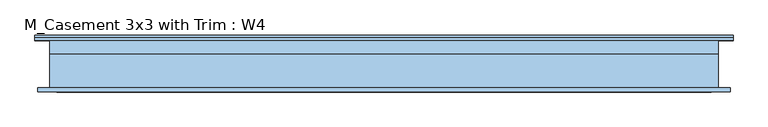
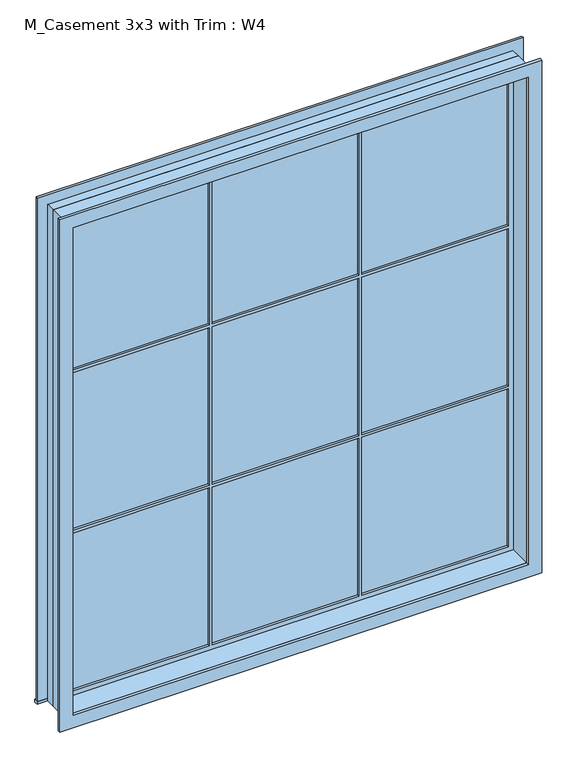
"""IFC4 building model written with IfcOpenShell, lengths in millimetres: window geometry, M_Casement 3x3 with Trim : W4."""

import ifcopenshell
import ifcopenshell.guid

model = None  # the IFC model being written
_history = None  # IfcOwnerHistory: only IFC2X3 demands one
_inside = {}  # id of a spatial element -> (the spatial element, [elements in it])
_under = {}  # id of a project, library or spatial element -> (it, [spatial elements below it])
_declared = {}  # id of a project -> (the project, [libraries it declares])
_typed = {}  # id of a type object -> (the type object, [elements of that type])
_made_of = {}  # id of a material, layer set ... -> (it, [elements and type objects made of it])


def new_model(schema):
    """Start an empty IFC model of exactly this schema.

    Asked for "IFC4X3", IfcOpenShell would pick the latest addendum, in which some entities
    have other attributes; the version numbers below select the first issue.
    IFC2X3 requires an IfcOwnerHistory on every rooted entity: one is made here for all.
    """
    global model, _history
    if schema == "IFC4X3":
        model = ifcopenshell.file(schema_version=(4, 3, 0, 0))
    else:
        model = ifcopenshell.file(schema=schema)
    _inside.clear()
    _under.clear()
    _declared.clear()
    _typed.clear()
    _made_of.clear()
    _history = None
    if model.schema == "IFC2X3":
        org = make("IfcOrganization", Name="unknown")
        user = make(
            "IfcPersonAndOrganization",
            ThePerson=make("IfcPerson", FamilyName="unknown"),
            TheOrganization=org,
        )
        app = make(
            "IfcApplication",
            ApplicationDeveloper=org,
            Version="unknown",
            ApplicationFullName="unknown",
            ApplicationIdentifier="unknown",
        )
        _history = make(
            "IfcOwnerHistory",
            OwningUser=user,
            OwningApplication=app,
            ChangeAction="ADDED",
            CreationDate=0,
        )
    return model


def make(cls, **values):
    """One entity of the class cls with the attributes given. An attribute that is None is left unset."""
    return model.create_entity(
        cls, **{name: value for name, value in values.items() if value is not None}
    )


def rooted(cls, **values):
    """An entity with a GlobalId (a new one), such as an element, a storey or a relation."""
    return make(cls, GlobalId=ifcopenshell.guid.new(), OwnerHistory=_history, **values)


def si_unit(unit_type, name, prefix=None):
    """IfcSIUnit, for example si_unit("LENGTHUNIT", "METRE", prefix="MILLI")."""
    return make("IfcSIUnit", UnitType=unit_type, Prefix=prefix, Name=name)


def assignment(units):
    """IfcUnitAssignment: the units of a project."""
    return None if units is None else make("IfcUnitAssignment", Units=units)


def point(xyz):
    """IfcCartesianPoint."""
    return None if xyz is None else make("IfcCartesianPoint", Coordinates=xyz)


def direction(xyz):
    """IfcDirection."""
    return None if xyz is None else make("IfcDirection", DirectionRatios=xyz)


def frame(location, z_axis=None, x_axis=None):
    """IfcAxis2Placement3D, a coordinate frame: its origin and axes. An axis left out is left unset."""
    return make(
        "IfcAxis2Placement3D",
        Location=point(location),
        Axis=direction(z_axis),
        RefDirection=direction(x_axis),
    )


def origin():
    """The frame at (0, 0, 0) with its axes left unset."""
    return frame((0.0, 0.0, 0.0))


def place(relative_to, where):
    """IfcLocalPlacement: puts the frame where relative to a parent placement (None: the world)."""
    return make(
        "IfcLocalPlacement", PlacementRelTo=relative_to, RelativePlacement=where
    )


def context(
    kind, dimensions, precision=None, world=None, true_north=None, identifier=None
):
    """IfcGeometricRepresentationContext, for example the 3D "Model" context."""
    return make(
        "IfcGeometricRepresentationContext",
        ContextIdentifier=identifier,
        ContextType=kind,
        CoordinateSpaceDimension=dimensions,
        Precision=precision,
        WorldCoordinateSystem=world,
        TrueNorth=true_north,
    )


def project(units=None, contexts=None):
    """IfcProject with its units and contexts."""
    return rooted(
        "IfcProject",
        Name="project",
        RepresentationContexts=contexts,
        UnitsInContext=assignment(units),
    )


def spatial(cls, under=None, at=None, **own):
    """A site, building, storey or space (cls), placed at a placement, below another one or the project."""
    s = rooted(cls, ObjectPlacement=at, **own)
    if under is not None:
        _under.setdefault(under.id(), (under, []))[1].append(s)
    return s


def polyline(points):
    """IfcPolyline through the points."""
    return make("IfcPolyline", Points=[point(p) for p in points])


def outline(outer, holes=None, kind="AREA"):
    """IfcArbitraryClosedProfileDef: a profile drawn as a closed curve; with holes, ...WithVoids."""
    if holes is None:
        return make("IfcArbitraryClosedProfileDef", ProfileType=kind, OuterCurve=outer)
    return make(
        "IfcArbitraryProfileDefWithVoids",
        ProfileType=kind,
        OuterCurve=outer,
        InnerCurves=holes,
    )


def extrude(swept, where, along, depth):
    """IfcExtrudedAreaSolid: the profile swept, set in the frame where, extruded along a direction by depth."""
    return make(
        "IfcExtrudedAreaSolid",
        SweptArea=swept,
        Position=where,
        ExtrudedDirection=direction(along),
        Depth=depth,
    )


def shape(context_of_items, identifier, shape_type, items):
    """IfcShapeRepresentation: the items that make up one representation, for example the "Body"."""
    return make(
        "IfcShapeRepresentation",
        ContextOfItems=context_of_items,
        RepresentationIdentifier=identifier,
        RepresentationType=shape_type,
        Items=items,
    )


def source(mapping_origin, context_of_items, identifier, shape_type, items):
    """IfcRepresentationMap: a shape defined once, which mapped items show again and again."""
    return make(
        "IfcRepresentationMap",
        MappingOrigin=mapping_origin,
        MappedRepresentation=shape(context_of_items, identifier, shape_type, items),
    )


def transform(
    local_origin,
    x_axis=None,
    y_axis=None,
    z_axis=None,
    scale=None,
    scale2=None,
    scale3=None,
    uniform=True,
):
    """IfcCartesianTransformationOperator3D, or its non-uniform kind. x_axis, y_axis, z_axis: its Axis1, 2, 3."""
    if uniform:
        return make(
            "IfcCartesianTransformationOperator3D",
            Axis1=direction(x_axis),
            Axis2=direction(y_axis),
            LocalOrigin=point(local_origin),
            Scale=scale,
            Axis3=direction(z_axis),
        )
    return make(
        "IfcCartesianTransformationOperator3DnonUniform",
        Axis1=direction(x_axis),
        Axis2=direction(y_axis),
        LocalOrigin=point(local_origin),
        Scale=scale,
        Axis3=direction(z_axis),
        Scale2=scale2,
        Scale3=scale3,
    )


def mapped(mapping_source, mapping_target):
    """IfcMappedItem: shows the shape of a source again, moved by a transform."""
    return make(
        "IfcMappedItem", MappingSource=mapping_source, MappingTarget=mapping_target
    )


def made_of(thing, what):
    """Note that an element or type object is made of a material, layer set ...; save() writes the relation."""
    if what is not None:
        _made_of.setdefault(what.id(), (what, []))[1].append(thing)
    return thing


def element(
    cls,
    number,
    at=None,
    inside=None,
    cuts=None,
    type_object=None,
    material=None,
    context=None,
    identifier="Body",
    shape_type=None,
    held_by="IfcProductDefinitionShape",
    body=None,
    shapes=None,
    **own,
):
    """One element of the class cls, such as IfcWall. Its Tag is "e" and its number.

    at: its placement. inside: the storey or other place that contains it. cuts: it is an
    opening in that element (IfcRelVoidsElement). A single representation is given by context,
    identifier, shape_type and body (its items); several are given by shapes. held_by: the class
    of the entity that holds the representations. save() writes the other relations.
    """
    e = rooted(cls, Tag="e%d" % number, ObjectPlacement=at, **own)
    if body is not None:
        shapes = [shape(context, identifier, shape_type, body)]
    if shapes is not None:
        e.Representation = make(held_by, Representations=shapes)
    if inside is not None:
        _inside.setdefault(inside.id(), (inside, []))[1].append(e)
    if cuts is not None:
        rooted(
            "IfcRelVoidsElement", RelatingBuildingElement=cuts, RelatedOpeningElement=e
        )
    if type_object is not None:
        _typed.setdefault(type_object.id(), (type_object, []))[1].append(e)
    return made_of(e, material)


def aggregate(whole, parts):
    """IfcRelAggregates: a whole, such as a stair, and the parts it consists of."""
    return rooted("IfcRelAggregates", RelatingObject=whole, RelatedObjects=parts)


def save(model, path):
    """Write the relations noted so far, then the file.

    IfcRelAggregates (storeys below a building ...), IfcRelContainedInSpatialStructure (elements
    in a storey), IfcRelDefinesByType, IfcRelAssociatesMaterial and IfcRelDeclares: one each for
    every whole, place, type object, material and project.
    """
    for whole, parts in _under.values():
        aggregate(whole, parts)
    for where, things in _inside.values():
        rooted(
            "IfcRelContainedInSpatialStructure",
            RelatedElements=things,
            RelatingStructure=where,
        )
    for kind, things in _typed.values():
        rooted("IfcRelDefinesByType", RelatedObjects=things, RelatingType=kind)
    for what, things in _made_of.values():
        rooted("IfcRelAssociatesMaterial", RelatedObjects=things, RelatingMaterial=what)
    for by, libraries in _declared.values():
        rooted("IfcRelDeclares", RelatingContext=by, RelatedDefinitions=libraries)
    model.write(path)


def m_casement_3x3_with_trim_w4_ecc57509(model_context):
    return source(origin(), model_context, "Body", "SweptSolid", [
        extrude(outline(polyline([(-1619.95, 135.7), (1619.95, 135.7), (1619.95, 110.0), (-1619.95, 110.0), (-1619.95, 135.7)])), frame((0.0, 0.0, 915.0), z_axis=(0.0, 0.0, 1.0), x_axis=(1.0, 0.0, 0.0)), (0.0, 0.0, 1.0), 19.05),
        extrude(outline(polyline([(4395.95, -1530.95), (4395.95, 1530.95), (934.05, 1530.95), (934.05, 1619.95), (4484.95, 1619.95), (4484.95, -1619.95), (934.05, -1619.95), (934.05, -1530.95), (4395.95, -1530.95)])), frame((0.0, 110.0, 0.0), z_axis=(0.0, 1.0, 0.0), x_axis=(0.0, 0.0, 1.0)), (0.0, 0.0, 1.0), 13.0),
        extrude(outline(polyline([(508.2, 75.125), (1486.5, 75.125), (1486.5, 62.425), (508.2, 62.425), (508.2, 75.125)])), frame((0.0, 0.0, 3239.8666667), z_axis=(0.0, 0.0, 1.0), x_axis=(1.0, 0.0, 0.0)), (0.0, 0.0, 1.0), 1111.6333333),
        extrude(outline(polyline([(-489.15, 75.125), (489.15, 75.125), (489.15, 62.425), (-489.15, 62.425), (-489.15, 75.125)])), frame((0.0, 0.0, 3239.8666667), z_axis=(0.0, 0.0, 1.0), x_axis=(1.0, 0.0, 0.0)), (0.0, 0.0, 1.0), 1111.6333333),
        extrude(outline(polyline([(-1486.5, 75.125), (-508.2, 75.125), (-508.2, 62.425), (-1486.5, 62.425), (-1486.5, 75.125)])), frame((0.0, 0.0, 3239.8666667), z_axis=(0.0, 0.0, 1.0), x_axis=(1.0, 0.0, 0.0)), (0.0, 0.0, 1.0), 1111.6333333),
        extrude(outline(polyline([(-1486.5, 75.125), (-508.2, 75.125), (-508.2, 62.425), (-1486.5, 62.425), (-1486.5, 75.125)])), frame((0.0, 0.0, 2109.1833333), z_axis=(0.0, 0.0, 1.0), x_axis=(1.0, 0.0, 0.0)), (0.0, 0.0, 1.0), 1111.6333333),
        extrude(outline(polyline([(-489.15, 75.125), (489.15, 75.125), (489.15, 62.425), (-489.15, 62.425), (-489.15, 75.125)])), frame((0.0, 0.0, 2109.1833333), z_axis=(0.0, 0.0, 1.0), x_axis=(1.0, 0.0, 0.0)), (0.0, 0.0, 1.0), 1111.6333333),
        extrude(outline(polyline([(508.2, 75.125), (1486.5, 75.125), (1486.5, 62.425), (508.2, 62.425), (508.2, 75.125)])), frame((0.0, 0.0, 2109.1833333), z_axis=(0.0, 0.0, 1.0), x_axis=(1.0, 0.0, 0.0)), (0.0, 0.0, 1.0), 1111.6333333),
        extrude(outline(polyline([(508.2, 75.125), (1486.5, 75.125), (1486.5, 62.425), (508.2, 62.425), (508.2, 75.125)])), frame((0.0, 0.0, 978.5), z_axis=(0.0, 0.0, 1.0), x_axis=(1.0, 0.0, 0.0)), (0.0, 0.0, 1.0), 1111.6333333),
        extrude(outline(polyline([(-489.15, 75.125), (489.15, 75.125), (489.15, 62.425), (-489.15, 62.425), (-489.15, 75.125)])), frame((0.0, 0.0, 978.5), z_axis=(0.0, 0.0, 1.0), x_axis=(1.0, 0.0, 0.0)), (0.0, 0.0, 1.0), 1111.6333333),
        extrude(outline(polyline([(-1486.5, 75.125), (-508.2, 75.125), (-508.2, 62.425), (-1486.5, 62.425), (-1486.5, 75.125)])), frame((0.0, 0.0, 978.5), z_axis=(0.0, 0.0, 1.0), x_axis=(1.0, 0.0, 0.0)), (0.0, 0.0, 1.0), 1111.6333333),
        extrude(outline(polyline([(4472.25, 1607.25), (4472.25, -1607.25), (857.75, -1607.25), (857.75, 1607.25), (4472.25, 1607.25)]), holes=[polyline([(4383.25, 1518.25), (946.75, 1518.25), (946.75, -1518.25), (4383.25, -1518.25), (4383.25, 1518.25)])]), frame((0.0, -129.0, 0.0), z_axis=(0.0, 1.0, 0.0), x_axis=(0.0, 0.0, 1.0)), (0.0, 0.0, 1.0), 19.0),
        extrude(outline(polyline([(4395.95, -1530.95), (934.05, -1530.95), (934.05, 1530.95), (4395.95, 1530.95), (4395.95, -1530.95)]), holes=[polyline([(4351.5, -508.2), (3239.8666667, -508.2), (3239.8666667, -1486.5), (4351.5, -1486.5), (4351.5, -508.2)]), polyline([(3220.8166667, -508.2), (2109.1833333, -508.2), (2109.1833333, -1486.5), (3220.8166667, -1486.5), (3220.8166667, -508.2)]), polyline([(2090.1333333, -508.2), (978.5, -508.2), (978.5, -1486.5), (2090.1333333, -1486.5), (2090.1333333, -508.2)]), polyline([(4351.5, 489.15), (3239.8666667, 489.15), (3239.8666667, -489.15), (4351.5, -489.15), (4351.5, 489.15)]), polyline([(3220.8166667, 489.15), (2109.1833333, 489.15), (2109.1833333, -489.15), (3220.8166667, -489.15), (3220.8166667, 489.15)]), polyline([(2090.1333333, 489.15), (978.5, 489.15), (978.5, -489.15), (2090.1333333, -489.15), (2090.1333333, 489.15)]), polyline([(4351.5, 1486.5), (3239.8666667, 1486.5), (3239.8666667, 508.2), (4351.5, 508.2), (4351.5, 1486.5)]), polyline([(3220.8166667, 1486.5), (2109.1833333, 1486.5), (2109.1833333, 508.2), (3220.8166667, 508.2), (3220.8166667, 1486.5)]), polyline([(2090.1333333, 1486.5), (978.5, 1486.5), (978.5, 508.2), (2090.1333333, 508.2), (2090.1333333, 1486.5)])]), frame((0.0, 46.55, 0.0), z_axis=(0.0, 1.0, 0.0), x_axis=(0.0, 0.0, 1.0)), (0.0, 0.0, 1.0), 44.45),
        extrude(outline(polyline([(4415.0, -1550.0), (915.0, -1550.0), (915.0, 1550.0), (4415.0, 1550.0), (4415.0, -1550.0)]), holes=[polyline([(4383.25, -1518.25), (4383.25, 1518.25), (946.75, 1518.25), (946.75, -1518.25), (4383.25, -1518.25)])]), frame((0.0, -110.0, 0.0), z_axis=(0.0, 1.0, 0.0), x_axis=(0.0, 0.0, 1.0)), (0.0, 0.0, 1.0), 156.55),
        extrude(outline(polyline([(4415.0, 1550.0), (4415.0, -1550.0), (915.0, -1550.0), (915.0, 1550.0), (4415.0, 1550.0)]), holes=[polyline([(4395.95, 1530.95), (934.05, 1530.95), (934.05, -1530.95), (4395.95, -1530.95), (4395.95, 1530.95)])]), frame((0.0, 46.55, 0.0), z_axis=(0.0, 1.0, 0.0), x_axis=(0.0, 0.0, 1.0)), (0.0, 0.0, 1.0), 63.45),
    ])


if __name__ == "__main__":
    model = new_model("IFC4")
    model_context = context("Model", 3, world=origin())
    ifc_project = project(units=[si_unit("LENGTHUNIT", "METRE", prefix="MILLI")], contexts=[model_context])
    site = spatial("IfcSite", under=ifc_project)
    building = spatial("IfcBuilding", under=site)
    placement = place(None, origin())
    m_casement_3x3_with_trim_w4_shape = m_casement_3x3_with_trim_w4_ecc57509(model_context)
    element("IfcWindow", 1, ObjectType="M_Casement 3x3 with Trim : W4", at=placement, inside=building, context=model_context, shape_type="MappedRepresentation", body=[
        mapped(m_casement_3x3_with_trim_w4_shape, transform((0.0, 0.0, 0.0), x_axis=(1.0, 0.0, 0.0), y_axis=(0.0, 1.0, 0.0), z_axis=(0.0, 0.0, 1.0))),
    ])
    save(model, "model.ifc")
